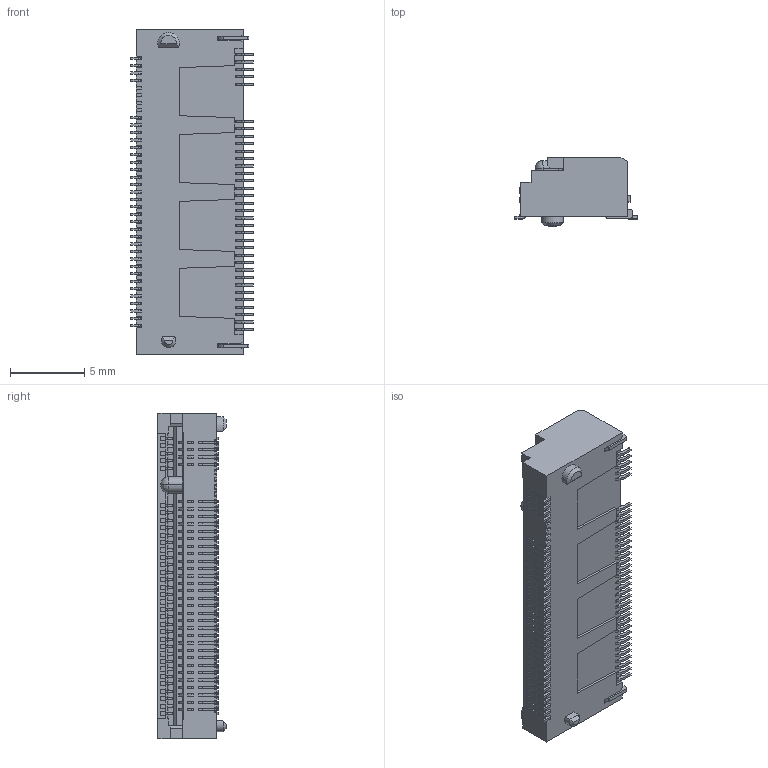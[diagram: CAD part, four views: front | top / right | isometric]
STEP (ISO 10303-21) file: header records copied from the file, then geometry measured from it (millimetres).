
FILE_DESCRIPTION((''),'2;1');
FILE_NAME('AC-12-CF08-XXX_M_2_4_0H_M_KEY_G','2026-08-19T',('PMT1 SFT'),(''),'PRO/ENGINEER BY PARAMETRIC TECHNOLOGY CORPORATION, 2011490','PRO/ENGINEER BY PARAMETRIC TECHNOLOGY CORPORATION, 2011490','');
FILE_SCHEMA(('CONFIG_CONTROL_DESIGN'));
Products named in the file (1): AC-12-CF08-XXX_M_2_4_0H_M_KEY_G
Bounding box: 8.25 x 4.6 x 21.9 mm (x, y, z)
Volume: 491.1 mm3; surface area: 898.8 mm2
Topology: 1 solids, 3 shells, 2958 faces, 8882 edges, 5966 vertices
Faces by surface type: plane 2080, cylinder 874, bspline 2, cone 2
Entity records: 100228 total; most frequent: CARTESIAN_POINT 18138, ORIENTED_EDGE 17760, DIRECTION 16705, EDGE_CURVE 8880, VECTOR 6897, LINE 6897, VERTEX_POINT 5966, AXIS2_PLACEMENT_3D 4904
